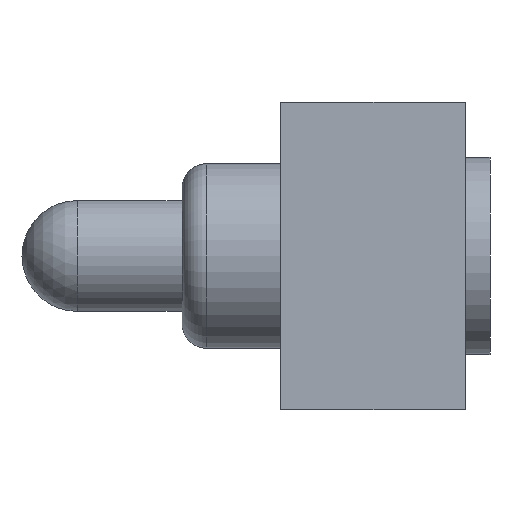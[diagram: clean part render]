
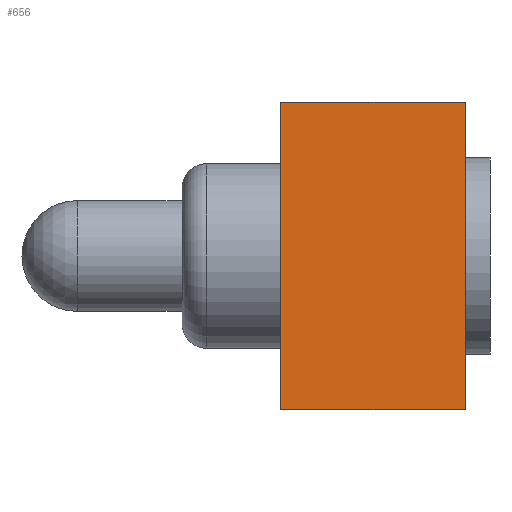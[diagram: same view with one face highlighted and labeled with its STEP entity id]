
A CAD part, front view. The second image highlights one B-rep face of the part: STEP entity #656.
In plain terms, the highlighted planar face has unit normal (0, -1, 0).
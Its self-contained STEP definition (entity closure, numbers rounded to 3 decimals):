
#49=DIRECTION('',(0.,0.,-1.));
#50=VECTOR('',#49,2.5);
#51=CARTESIAN_POINT('',(0.,-6.,1.25));
#52=LINE('',#51,#50);
#141=DIRECTION('',(0.,0.,-1.));
#142=VECTOR('',#141,2.5);
#143=CARTESIAN_POINT('',(1.5,-6.,1.25));
#144=LINE('',#143,#142);
#225=DIRECTION('',(1.,0.,0.));
#226=VECTOR('',#225,1.5);
#227=CARTESIAN_POINT('',(0.,-6.,1.25));
#228=LINE('',#227,#226);
#237=DIRECTION('',(1.,0.,0.));
#238=VECTOR('',#237,1.5);
#239=CARTESIAN_POINT('',(0.,-6.,-1.25));
#240=LINE('',#239,#238);
#289=CARTESIAN_POINT('',(0.,-6.,1.25));
#290=VERTEX_POINT('',#289);
#291=CARTESIAN_POINT('',(0.,-6.,-1.25));
#292=VERTEX_POINT('',#291);
#313=CARTESIAN_POINT('',(1.5,-6.,1.25));
#314=CARTESIAN_POINT('',(1.5,-6.,-1.25));
#315=VERTEX_POINT('',#313);
#316=VERTEX_POINT('',#314);
#644=CARTESIAN_POINT('',(0.,-6.,1.25));
#645=DIRECTION('',(0.,-1.,0.));
#646=DIRECTION('',(0.,0.,-1.));
#647=AXIS2_PLACEMENT_3D('',#644,#645,#646);
#648=PLANE('',#647);
#649=ORIENTED_EDGE('',*,*,#362,.F.);
#650=ORIENTED_EDGE('',*,*,#635,.T.);
#651=ORIENTED_EDGE('',*,*,#444,.T.);
#653=ORIENTED_EDGE('',*,*,#652,.F.);
#654=EDGE_LOOP('',(#649,#650,#651,#653));
#655=FACE_OUTER_BOUND('',#654,.F.);
#656=ADVANCED_FACE('',(#655),#648,.T.);
#362=EDGE_CURVE('',#290,#292,#52,.T.);
#444=EDGE_CURVE('',#315,#316,#144,.T.);
#635=EDGE_CURVE('',#290,#315,#228,.T.);
#652=EDGE_CURVE('',#292,#316,#240,.T.);
